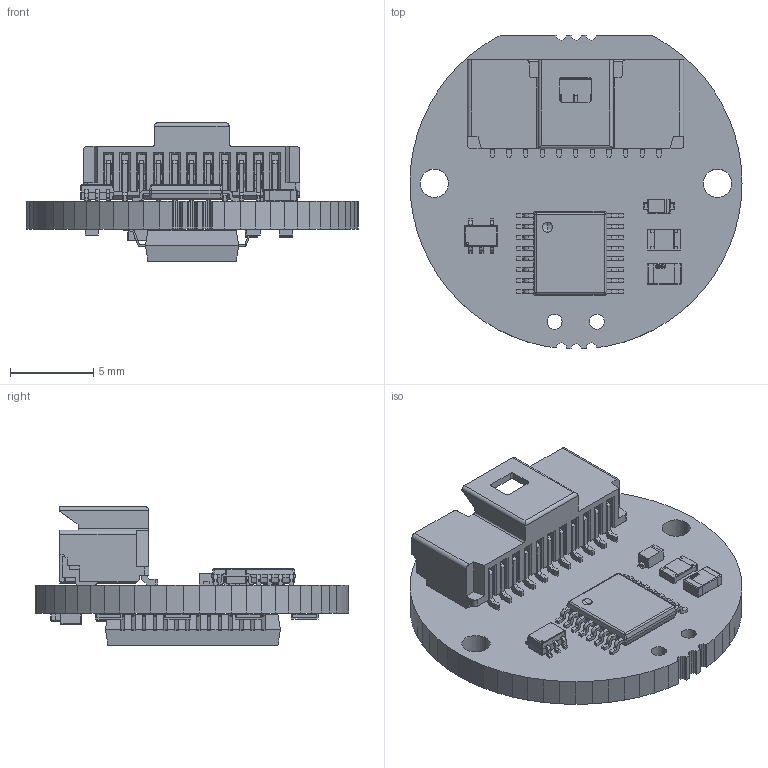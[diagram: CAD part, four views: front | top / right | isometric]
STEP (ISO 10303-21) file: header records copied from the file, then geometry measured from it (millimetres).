
FILE_DESCRIPTION (( 'STEP AP214' ), '1' );
FILE_NAME ('RMB20U-module.STEP', '2013-01-09T13:57:38', ( '' ), ( '' ), 'SwSTEP 2.0', 'SolidWorks 2010', '' );
FILE_SCHEMA (( 'AUTOMOTIVE_DESIGN' ));
Length unit declared in the file: millimetre
Products named in the file (30): SW3dPS-R0805; Open CASCADE STEP translator 6.2 1.17.1.1; K10; SOD523; 5015681107; D2; SW3dPS-SC70-5; D1; SW3dPS-R0603; R3; R2; R1; SW3dPS-TSSOP-16; IC2; SW3dPS-SSOP-28; IC1; RMB20U-module; R5; R6; PCB-RMB20U; C3; C2; C1; R4; C6; C4; C0805; L1; C0603; C7
Assembly tree (38 placements, depth 4):
  RMB20U-module
    R3
      SW3dPS-R0603
    R4
      SW3dPS-R0603
    K10
      5015681107
        Open CASCADE STEP translator 6.2 1.17.1.1
    R1
      SW3dPS-R0603
    C4
      C0603
    D2
      SOD523
    L1
      SW3dPS-R0805
    C2
      C0603
    R2
      SW3dPS-R0603
    R6
      SW3dPS-R0603
    PCB-RMB20U
    D1
      SW3dPS-SC70-5
    C7
      C0603
    IC2
      SW3dPS-TSSOP-16
    C3
      C0805
    C1
      C0805
    R5
      SW3dPS-R0603
    C6
      C0603
    IC1
      SW3dPS-SSOP-28
Bounding box: 19.92 x 18.83 x 8.29 mm (x, y, z)
Volume: 252.6 mm3; surface area: 1776.3 mm2
Topology: 59 solids, 62 shells, 3019 faces, 7737 edges, 4850 vertices
Faces by surface type: plane 2039, cylinder 503, bspline 385, cone 92
Entity records: 94844 total; most frequent: CARTESIAN_POINT 23189, ORIENTED_EDGE 12098, DIRECTION 10847, EDGE_CURVE 6054, VECTOR 4809, LINE 4809, VERTEX_POINT 3849, AXIS2_PLACEMENT_3D 3019
